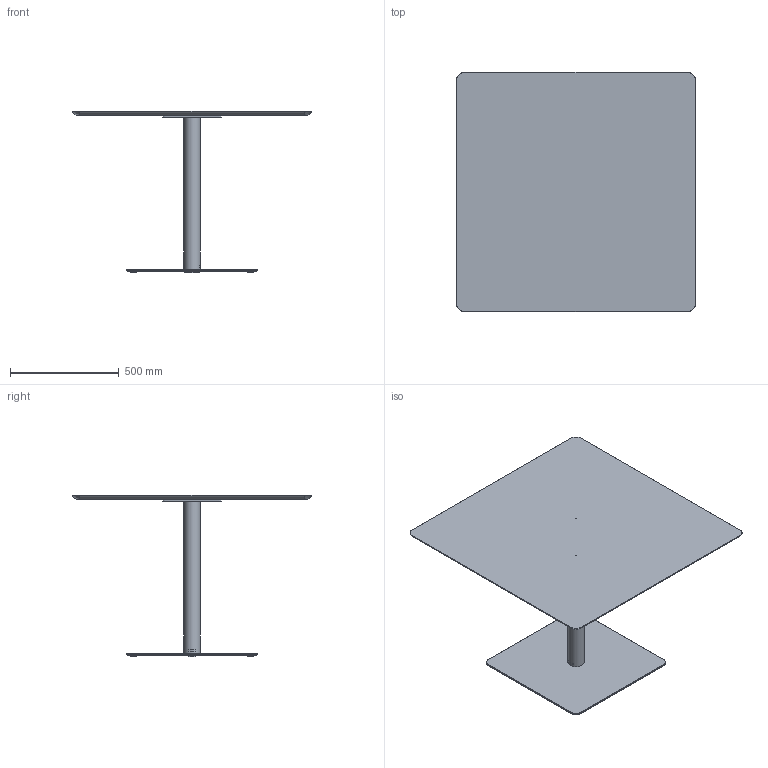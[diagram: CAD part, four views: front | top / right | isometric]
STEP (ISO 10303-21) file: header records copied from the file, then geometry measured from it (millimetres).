
FILE_DESCRIPTION( ('This file contains a STEP AP42 implementation' ,'as created by ZW3D STEP Interface translator.') ,'2;1' );
FILE_NAME( 'Henri - B_Carré - F3 - M3 - 1100 x 1100 x 750.stp' ,'24 912.171249', (''), ('ZWCAD Software Co.'), 'Version 1.0', 'ZW3D to STEP translator', '' );
FILE_SCHEMA(('AUTOMOTIVE_DESIGN { 1 0 10303 214 1 1 1 1 }'));
Length unit declared in the file: millimetre
Products named in the file (14): 0; PIED BISTROT PARAMETRIQUE_; COLONNE ACIER Ø76 V.02_; TUB-D076-02_; PLA-R76B-01_; CROIX ACIER 370 V.02_; CRX-X370-02_; SOCLE ACIER L 600x600 V.02_; SCL-R600-02_; PLA-R30A-01_; PLA-R30A-01; WUERTH 0276063020 Euro-screw 6.3x2 Verzinkt_; PLATEAU BISTROT PARAMETRIQUE_; insert_m6_13_
Assembly tree (22 placements, depth 3):
  0
  PIED BISTROT PARAMETRIQUE_
    COLONNE ACIER Ø76 V.02_
      TUB-D076-02_
      PLA-R76B-01_  x2
    CROIX ACIER 370 V.02_
      CRX-X370-02_
    SOCLE ACIER L 600x600 V.02_
      SCL-R600-02_
      PLA-R30A-01_
      PLA-R30A-01  x3
    WUERTH 0276063020 Euro-screw 6.3x2 Verzinkt_
    PLATEAU BISTROT PARAMETRIQUE_
      insert_m6_13_  x8
Bounding box: 1100 x 1100 x 744 mm (x, y, z)
Volume: 27321338.5 mm3; surface area: 3708286.2 mm2
Topology: 19 solids, 19 shells, 537 faces, 1310 edges, 822 vertices
Faces by surface type: plane 258, bspline 125, cylinder 102, cone 51, torus 1
Full cylindrical faces by diameter (mm): 4.88 x1, 6 x8, 6.3 x1, 8 x45, 12 x2, 14 x2, 30 x4, 72 x1, 76 x1
Entity records: 12346 total; most frequent: CARTESIAN_POINT 3440, ORIENTED_EDGE 1624, DIRECTION 1519, EDGE_CURVE 812, VERTEX_POINT 518, AXIS2_PLACEMENT_3D 507, VECTOR 505, LINE 505
